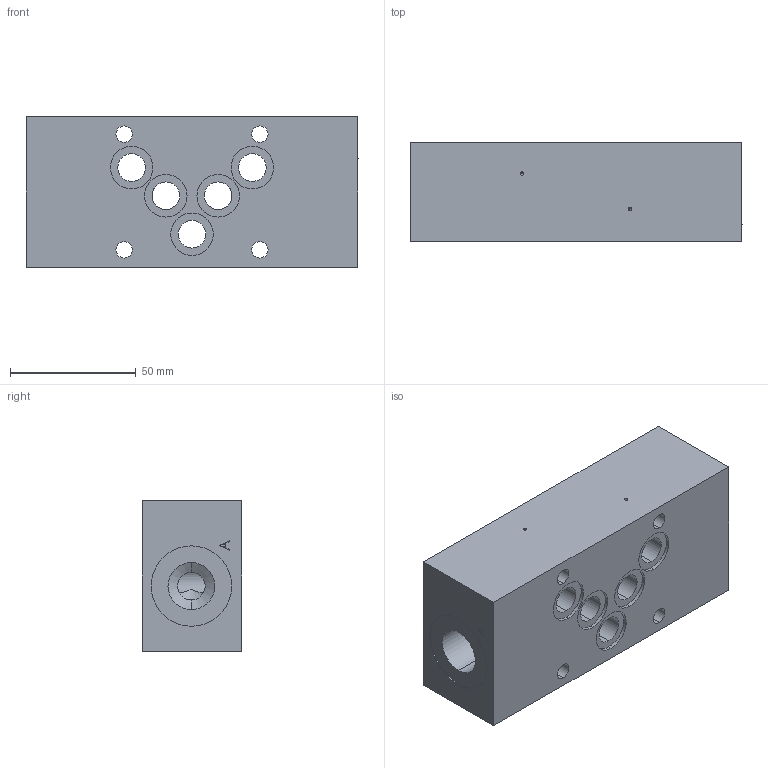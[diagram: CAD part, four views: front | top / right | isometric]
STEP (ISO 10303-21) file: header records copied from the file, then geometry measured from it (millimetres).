
FILE_DESCRIPTION (( 'STEP AP214' ), '1' );
FILE_NAME ('ASGKAB10.STEP', '2017-03-20T06:15:27', ( '' ), ( '' ), 'SwSTEP 2.0', 'SolidWorks 2016', '' );
FILE_SCHEMA (( 'AUTOMOTIVE_DESIGN' ));
Length unit declared in the file: millimetre
Products named in the file (1): ASGKAB10
Bounding box: 132 x 39.5 x 60 mm (x, y, z)
Volume: 271751.5 mm3; surface area: 43947.4 mm2
Topology: 1 solids, 1 shells, 102 faces, 257 edges, 165 vertices
Faces by surface type: cylinder 44, plane 38, cone 11, bspline 9
Entity records: 3846 total; most frequent: CARTESIAN_POINT 1293, ORIENTED_EDGE 506, DIRECTION 500, EDGE_CURVE 253, AXIS2_PLACEMENT_3D 182, VERTEX_POINT 165, VECTOR 136, LINE 136
